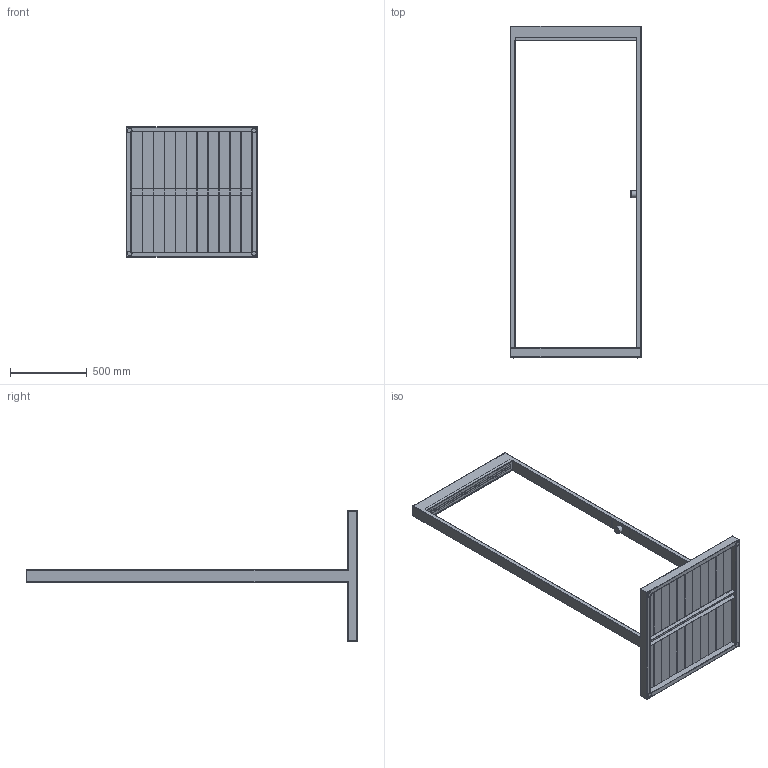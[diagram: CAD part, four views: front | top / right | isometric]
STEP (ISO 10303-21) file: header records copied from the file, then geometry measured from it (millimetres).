
FILE_DESCRIPTION(/* description */ (''),/* implementation_level */ '2;1');
FILE_NAME(/* name */ 'C:\INVENTOR\Workspace\# ARKITEKT FILER\Shower\Shower.stp',/* time_stamp */ '2020-06-22T09:14:45+02:00',/* author */ ('Röshults'),/* organization */ (''),/* preprocessor_version */ 'ST-DEVELOPER v17.2',/* originating_system */ 'Autodesk Inventor 2019',/* authorisation */ '');
FILE_SCHEMA (('AUTOMOTIVE_DESIGN { 1 0 10303 214 3 1 1 }'));
Length unit declared in the file: millimetre
Products named in the file (1): Shower
Bounding box: 853 x 2160 x 850 mm (x, y, z)
Volume: 34476394.2 mm3; surface area: 3580655.9 mm2
Topology: 12 solids, 12 shells, 687 faces, 1159 edges, 752 vertices
Faces by surface type: plane 370, cylinder 304, sphere 12, cone 1
Full cylindrical faces by diameter (mm): 1 x255, 30 x5, 45 x2
Entity records: 16409 total; most frequent: DIRECTION 3136, CARTESIAN_POINT 2599, ORIENTED_EDGE 2318, AXIS2_PLACEMENT_3D 1289, EDGE_CURVE 1159, EDGE_LOOP 949, VERTEX_POINT 752, FACE_OUTER_BOUND 687
